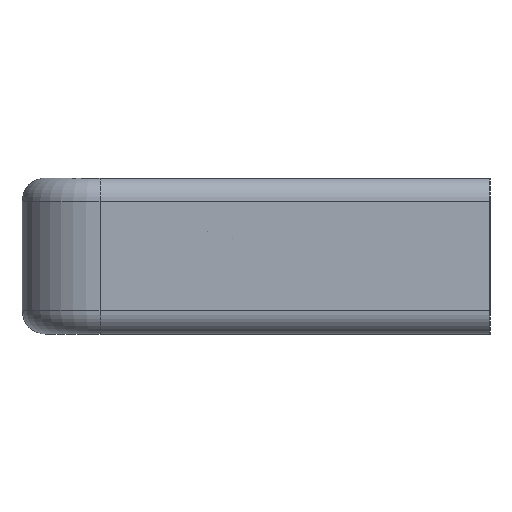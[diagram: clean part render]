
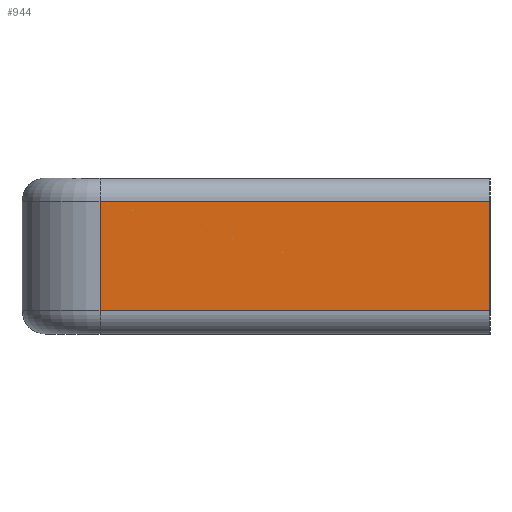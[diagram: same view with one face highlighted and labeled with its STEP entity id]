
A CAD part, left-side view. The second image highlights one B-rep face of the part: STEP entity #944.
In plain terms, the highlighted planar face has unit normal (-1, 0, 0).
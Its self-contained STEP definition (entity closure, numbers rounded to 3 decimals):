
#416=CARTESIAN_POINT('',(-80.0,0.0,7.0));
#417=VERTEX_POINT('',#416);
#425=CARTESIAN_POINT('',(-80.0,0.0,-7.0));
#426=VERTEX_POINT('',#425);
#427=CARTESIAN_POINT('',(-80.0,0.0,-7.0));
#428=DIRECTION('',(0.0,0.0,1.0));
#429=VECTOR('',#428,14.0);
#430=LINE('',#427,#429);
#431=EDGE_CURVE('',#426,#417,#430,.T.);
#785=CARTESIAN_POINT('',(-80.0,50.0,-7.0));
#786=VERTEX_POINT('',#785);
#812=CARTESIAN_POINT('',(-80.0,0.0,-7.0));
#813=DIRECTION('',(0.0,1.0,0.0));
#814=VECTOR('',#813,50.0);
#815=LINE('',#812,#814);
#816=EDGE_CURVE('',#426,#786,#815,.T.);
#909=CARTESIAN_POINT('',(-80.0,50.0,7.0));
#910=VERTEX_POINT('',#909);
#911=CARTESIAN_POINT('',(-80.0,50.0,-7.0));
#912=DIRECTION('',(0.0,0.0,1.0));
#913=VECTOR('',#912,14.0);
#914=LINE('',#911,#913);
#915=EDGE_CURVE('',#786,#910,#914,.T.);
#928=CARTESIAN_POINT('',(-80.0,0.0,0.0));
#929=DIRECTION('',(-1.0,0.0,0.0));
#930=DIRECTION('',(0.0,0.0,1.0));
#931=AXIS2_PLACEMENT_3D('',#928,#929,#930);
#932=PLANE('',#931);
#933=ORIENTED_EDGE('',*,*,#816,.F.);
#934=ORIENTED_EDGE('',*,*,#431,.T.);
#935=CARTESIAN_POINT('',(-80.0,50.0,7.0));
#936=DIRECTION('',(0.0,-1.0,0.0));
#937=VECTOR('',#936,50.0);
#938=LINE('',#935,#937);
#939=EDGE_CURVE('',#910,#417,#938,.T.);
#940=ORIENTED_EDGE('',*,*,#939,.F.);
#941=ORIENTED_EDGE('',*,*,#915,.F.);
#942=EDGE_LOOP('',(#933,#934,#940,#941));
#943=FACE_OUTER_BOUND('',#942,.T.);
#944=ADVANCED_FACE('',(#943),#932,.T.);
